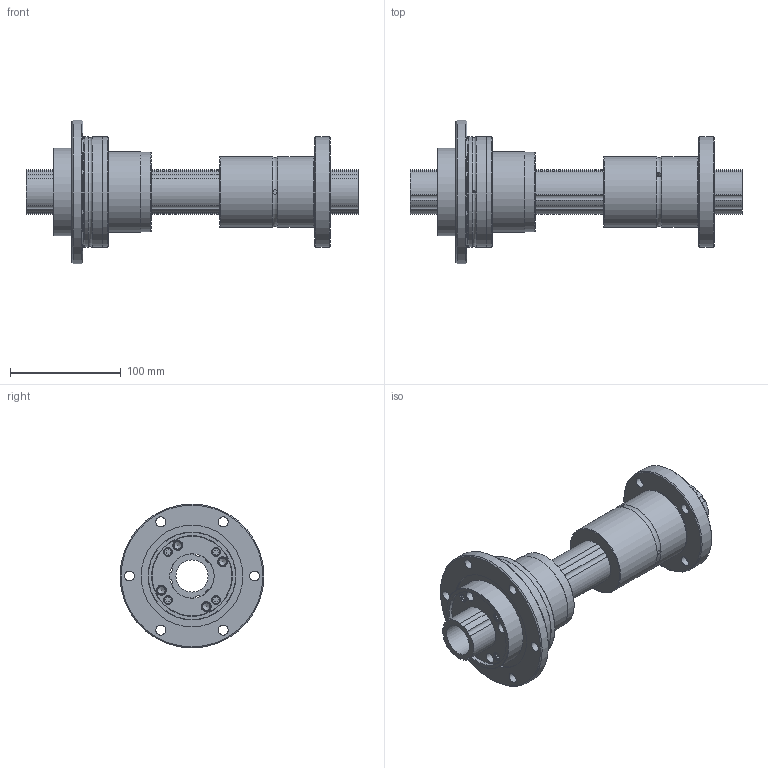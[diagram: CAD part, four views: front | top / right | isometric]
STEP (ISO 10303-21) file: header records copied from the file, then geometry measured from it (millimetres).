
FILE_DESCRIPTION(/* description */ ('STEP AP203'),/* implementation_level */ '2;1');
FILE_NAME(/* name */ 'NS4040A+300L',/* time_stamp */ '2025-06-11T08:45:52+02:00',/* author */ ('License CC BY-ND 4.0'),/* organization */ ('CADENAS'),/* preprocessor_version */ 'ST-DEVELOPER v19.3',/* originating_system */ 'PARTsolutions',/* authorisation */ ' ');
FILE_SCHEMA (('CONFIG_CONTROL_DESIGN'));
Length unit declared in the file: millimetre
Products named in the file (4): NS4040A+300L; NS 4040A+300L Shaft; NS 4040ASpline_b; NS 4040ASpline
Assembly tree (3 placements, depth 2):
  NS4040A+300L
    NS 4040A+300L Shaft
    NS 4040ASpline_b
    NS 4040ASpline
Bounding box: 300 x 130 x 130 mm (x, y, z)
Volume: 841566.9 mm3; surface area: 185119.1 mm2
Topology: 3 solids, 3 shells, 155 faces, 325 edges, 211 vertices
Faces by surface type: cylinder 65, plane 65, cone 15, torus 10
Full cylindrical faces by diameter (mm): 1.8 x1, 4 x3, 6.647 x4, 7 x4, 8 x4, 9 x14, 14 x4, 29 x1, 40 x2, 64 x2, 72 x2, 73 x2, 79.5 x2, 92 x2, 99.5 x1, 99.6 x1, 100 x3, 130 x1
Entity records: 3855 total; most frequent: DIRECTION 690, CARTESIAN_POINT 643, ORIENTED_EDGE 464, AXIS2_PLACEMENT_3D 303, FACE_BOUND 298, EDGE_LOOP 294, EDGE_CURVE 232, VERTEX_POINT 200
